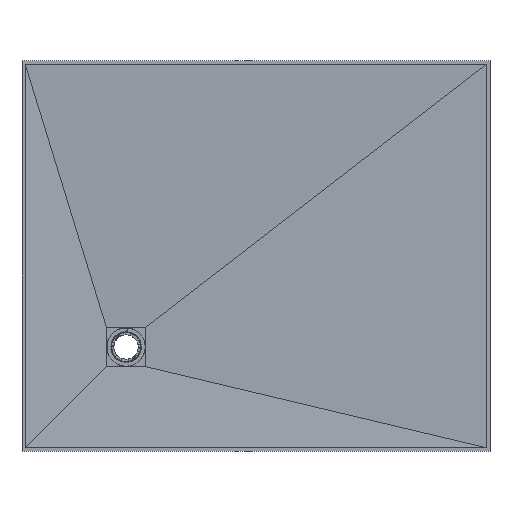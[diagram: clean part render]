
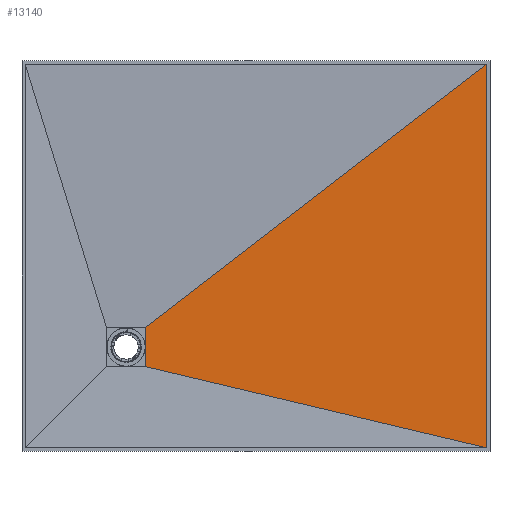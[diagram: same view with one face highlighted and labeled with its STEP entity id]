
A CAD part, top view. The second image highlights one B-rep face of the part: STEP entity #13140.
In plain terms, the highlighted planar face has unit normal (-0.021, 0, 1).
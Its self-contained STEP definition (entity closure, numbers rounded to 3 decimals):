
#2348=FACE_OUTER_BOUND('',#3093,.T.);
#3093=EDGE_LOOP('',(#8808,#8809,#8810,#8811));
#3902=LINE('',#18662,#4523);
#3908=LINE('',#18674,#4529);
#3910=LINE('',#18677,#4531);
#3911=LINE('',#18679,#4532);
#4523=VECTOR('',#15362,10.);
#4529=VECTOR('',#15370,10.);
#4531=VECTOR('',#15374,10.);
#4532=VECTOR('',#15377,10.);
#5139=VERTEX_POINT('',#18659);
#5140=VERTEX_POINT('',#18661);
#5143=VERTEX_POINT('',#18668);
#5145=VERTEX_POINT('',#18672);
#6605=EDGE_CURVE('',#5139,#5140,#3902,.F.);
#6611=EDGE_CURVE('',#5143,#5145,#3908,.F.);
#6613=EDGE_CURVE('',#5139,#5143,#3910,.T.);
#6614=EDGE_CURVE('',#5140,#5145,#3911,.T.);
#8808=ORIENTED_EDGE('',*,*,#6605,.F.);
#8809=ORIENTED_EDGE('',*,*,#6613,.T.);
#8810=ORIENTED_EDGE('',*,*,#6611,.T.);
#8811=ORIENTED_EDGE('',*,*,#6614,.F.);
#13070=PLANE('',#13978);
#13140=ADVANCED_FACE('',(#2348),#13070,.F.);
#13978=AXIS2_PLACEMENT_3D('',#18678,#15375,#15376);
#15362=DIRECTION('',(0.,1.,0.));
#15370=DIRECTION('',(0.,1.,0.));
#15374=DIRECTION('',(-0.792,-0.611,-0.016));
#15375=DIRECTION('center_axis',(0.021,0.,
-1.));
#15376=DIRECTION('ref_axis',(-1.,0.,-0.021));
#15377=DIRECTION('',(-0.973,0.232,-0.02));
#18659=CARTESIAN_POINT('',(901.287,573.783,25.));
#18661=CARTESIAN_POINT('',(901.287,-924.746,25.));
#18662=CARTESIAN_POINT('',(901.287,203.15,25.));
#18668=CARTESIAN_POINT('',(-431.113,-454.617,-2.5));
#18672=CARTESIAN_POINT('',(-431.113,-607.546,-2.5));
#18674=CARTESIAN_POINT('',(-431.113,21.35,-2.5));
#18677=CARTESIAN_POINT('',(336.621,137.951,13.346));
#18678=CARTESIAN_POINT('Origin',(901.274,573.8,25.));
#18679=CARTESIAN_POINT('',(732.54,-884.573,21.517));
